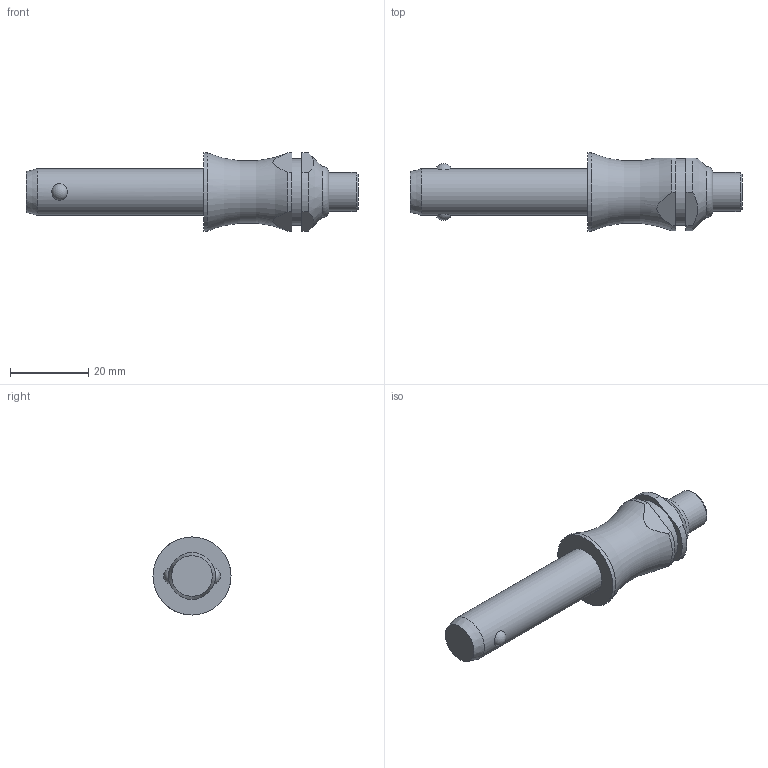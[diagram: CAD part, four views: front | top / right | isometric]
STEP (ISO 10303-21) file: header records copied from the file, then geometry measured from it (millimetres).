
FILE_DESCRIPTION( ( 'STEP AP203' ), '1' );
FILE_NAME( 'C:/Temp/Ganter_Step_05_03_2020/data/3_1/gn113_3/Stainless Steel-Ball lock pin GN 113.3-12-35 (deactivated).stp', '2020-03-12T08:18:42', ( 'License CC BY-ND 4.0' ), ( 'CADENAS' ), ' ', 'PARTsolutions', ' ' );
FILE_SCHEMA( ( 'CONFIG_CONTROL_DESIGN' ) );
Length unit declared in the file: millimetre
Products named in the file (1): _Stainless Steel-Ball lock pin GN 113.3-12-35 (deactivated)
Bounding box: 85.1 x 20 x 20 mm (x, y, z)
Volume: 13096 mm3; surface area: 4281.4 mm2
Topology: 1 solids, 1 shells, 28 faces, 60 edges, 39 vertices
Faces by surface type: plane 11, cylinder 10, cone 3, torus 2, sphere 2
Full cylindrical faces by diameter (mm): 10 x1, 12 x1, 17 x1, 20 x1
Entity records: 954 total; most frequent: CARTESIAN_POINT 338, DIRECTION 122, ORIENTED_EDGE 98, AXIS2_PLACEMENT_3D 52, EDGE_CURVE 49, EDGE_LOOP 42, VERTEX_POINT 38, FACE_OUTER_BOUND 34
